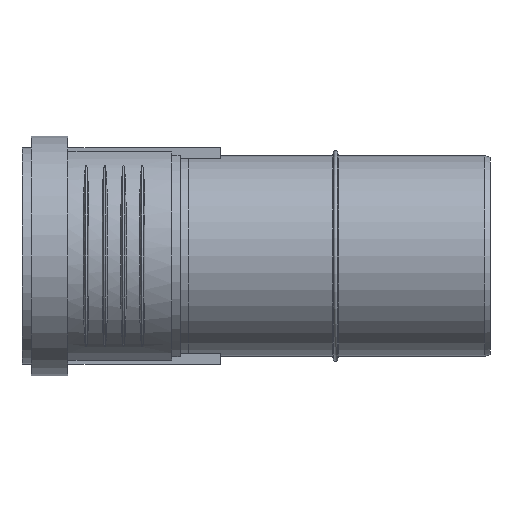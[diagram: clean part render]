
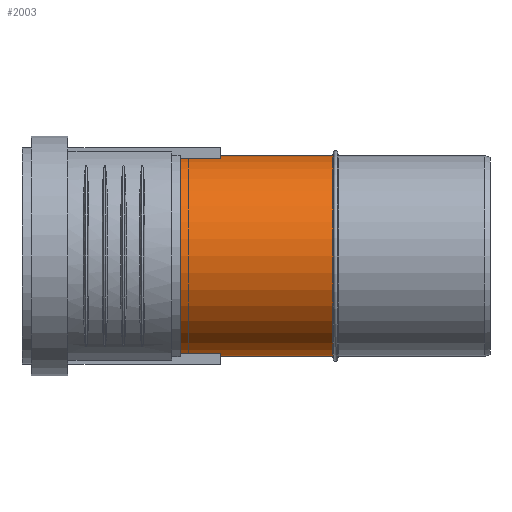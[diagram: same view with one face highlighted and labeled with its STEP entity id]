
A CAD part, left-side view. The second image highlights one B-rep face of the part: STEP entity #2003.
In plain terms, the highlighted cylindrical face has radius 37.6 mm (diameter 75.2 mm), a full revolution.
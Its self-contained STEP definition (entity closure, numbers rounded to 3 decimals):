
#262=CYLINDRICAL_SURFACE($,#2146,37.6);
#414=B_SPLINE_CURVE_WITH_KNOTS($,3,(#2974,#2975,#2976,#2977,#2978,#2979,
#2980,#2981,#2982,#2983,#2984,#2985,#2986,#2987,#2988,#2989,#2990,#2991,
#2992,#2993,#2994,#2995,#2996,#2997,#2998,#2999,#3000,#3001,#3002,#3003,
#3004,#3005,#3006,#3007,#3008,#3009,#3010,#3011,#3012,#3013,#3014,#3015,
#3016,#3017,#3018,#3019,#3020,#3021,#3022,#3023,#3024,#3025,#3026,#3027),
 .UNSPECIFIED.,.T.,.F.,(4,2,2,2,2,2,2,2,2,2,2,2,2,2,2,2,2,2,2,2,2,2,2,2,
2,2,4),(0.,1.299,2.598,3.391,3.788,
4.185,4.581,4.978,5.771,7.07,
8.369,8.834,9.3,9.765,10.23,
10.601,10.973,11.344,11.716,12.087,
12.459,12.83,13.202,13.667,14.132,
14.597,15.062),.UNSPECIFIED.);
#528=FACE_BOUND($,#723,.T.);
#529=FACE_BOUND($,#724,.T.);
#597=FACE_OUTER_BOUND($,#722,.T.);
#722=EDGE_LOOP($,(#1475));
#723=EDGE_LOOP($,(#1476));
#724=EDGE_LOOP($,(#1477));
#889=CIRCLE($,#2134,37.6);
#894=CIRCLE($,#2143,37.6);
#987=VERTEX_POINT($,#2955);
#992=VERTEX_POINT($,#2969);
#993=VERTEX_POINT($,#2973);
#1190=EDGE_CURVE($,#987,#987,#889,.T.);
#1195=EDGE_CURVE($,#992,#992,#894,.T.);
#1196=EDGE_CURVE($,#993,#993,#414,.T.);
#1475=ORIENTED_EDGE($,*,*,#1190,.T.);
#1476=ORIENTED_EDGE($,*,*,#1195,.T.);
#1477=ORIENTED_EDGE($,*,*,#1196,.T.);
#2003=ADVANCED_FACE($,(#597,#528,#529),#262,.T.);
#2134=AXIS2_PLACEMENT_3D($,#2956,#2375,#2376);
#2143=AXIS2_PLACEMENT_3D($,#2970,#2393,#2394);
#2146=AXIS2_PLACEMENT_3D($,#3028,#2399,#2400);
#2375=DIRECTION('center_axis',(0.,1.,0.));
#2376=DIRECTION('ref_axis',(1.,0.,0.));
#2393=DIRECTION('center_axis',(0.,-1.,0.));
#2394=DIRECTION('ref_axis',(1.,0.,0.));
#2399=DIRECTION('center_axis',(0.,1.,0.));
#2400=DIRECTION('ref_axis',(1.,0.,0.));
#2955=CARTESIAN_POINT('',(-37.6,58.95,0.));
#2956=CARTESIAN_POINT('Origin',(0.,58.95,0.));
#2969=CARTESIAN_POINT('',(37.6,117.01,0.));
#2970=CARTESIAN_POINT('Origin',(0.,117.01,0.));
#2973=CARTESIAN_POINT('',(31.792,81.702,20.075));
#2974=CARTESIAN_POINT('Ctrl Pts',(31.792,81.702,20.075));
#2975=CARTESIAN_POINT('Ctrl Pts',(31.792,86.032,20.075));
#2976=CARTESIAN_POINT('Ctrl Pts',(32.254,90.656,19.378));
#2977=CARTESIAN_POINT('Ctrl Pts',(33.641,99.516,16.856));
#2978=CARTESIAN_POINT('Ctrl Pts',(34.553,103.756,15.035));
#2979=CARTESIAN_POINT('Ctrl Pts',(35.906,109.463,11.262));
#2980=CARTESIAN_POINT('Ctrl Pts',(36.463,111.645,9.435));
#2981=CARTESIAN_POINT('Ctrl Pts',(37.101,114.06,6.205));
#2982=CARTESIAN_POINT('Ctrl Pts',(37.28,114.725,5.047));
#2983=CARTESIAN_POINT('Ctrl Pts',(37.53,115.645,2.606));
#2984=CARTESIAN_POINT('Ctrl Pts',(37.6,115.9,1.322));
#2985=CARTESIAN_POINT('Ctrl Pts',(37.6,115.9,-1.322));
#2986=CARTESIAN_POINT('Ctrl Pts',(37.53,115.645,-2.606));
#2987=CARTESIAN_POINT('Ctrl Pts',(37.28,114.725,-5.047));
#2988=CARTESIAN_POINT('Ctrl Pts',(37.101,114.06,-6.205));
#2989=CARTESIAN_POINT('Ctrl Pts',(36.463,111.645,-9.435));
#2990=CARTESIAN_POINT('Ctrl Pts',(35.906,109.463,-11.262));
#2991=CARTESIAN_POINT('Ctrl Pts',(34.553,103.756,-15.035));
#2992=CARTESIAN_POINT('Ctrl Pts',(33.641,99.516,-16.856));
#2993=CARTESIAN_POINT('Ctrl Pts',(32.254,90.656,-19.378));
#2994=CARTESIAN_POINT('Ctrl Pts',(31.792,86.032,-20.075));
#2995=CARTESIAN_POINT('Ctrl Pts',(31.792,80.152,-20.075));
#2996=CARTESIAN_POINT('Ctrl Pts',(31.85,78.534,-19.984));
#2997=CARTESIAN_POINT('Ctrl Pts',(32.122,75.313,-19.545));
#2998=CARTESIAN_POINT('Ctrl Pts',(32.336,73.709,-19.195));
#2999=CARTESIAN_POINT('Ctrl Pts',(32.912,70.654,-18.19));
#3000=CARTESIAN_POINT('Ctrl Pts',(33.275,69.2,-17.532));
#3001=CARTESIAN_POINT('Ctrl Pts',(34.08,66.554,-15.911));
#3002=CARTESIAN_POINT('Ctrl Pts',(34.521,65.363,-14.948));
#3003=CARTESIAN_POINT('Ctrl Pts',(35.29,63.512,-13.009));
#3004=CARTESIAN_POINT('Ctrl Pts',(35.64,62.754,-12.033));
#3005=CARTESIAN_POINT('Ctrl Pts',(36.29,61.437,-9.9));
#3006=CARTESIAN_POINT('Ctrl Pts',(36.59,60.877,-8.743));
#3007=CARTESIAN_POINT('Ctrl Pts',(37.085,59.987,-6.325));
#3008=CARTESIAN_POINT('Ctrl Pts',(37.28,59.656,-5.061));
#3009=CARTESIAN_POINT('Ctrl Pts',(37.537,59.222,-2.518));
#3010=CARTESIAN_POINT('Ctrl Pts',(37.6,59.12,-1.238));
#3011=CARTESIAN_POINT('Ctrl Pts',(37.6,59.12,1.238));
#3012=CARTESIAN_POINT('Ctrl Pts',(37.537,59.222,2.518));
#3013=CARTESIAN_POINT('Ctrl Pts',(37.28,59.656,5.061));
#3014=CARTESIAN_POINT('Ctrl Pts',(37.085,59.987,6.325));
#3015=CARTESIAN_POINT('Ctrl Pts',(36.59,60.877,8.743));
#3016=CARTESIAN_POINT('Ctrl Pts',(36.29,61.437,9.9));
#3017=CARTESIAN_POINT('Ctrl Pts',(35.64,62.754,12.033));
#3018=CARTESIAN_POINT('Ctrl Pts',(35.29,63.512,13.009));
#3019=CARTESIAN_POINT('Ctrl Pts',(34.521,65.363,14.948));
#3020=CARTESIAN_POINT('Ctrl Pts',(34.08,66.554,15.911));
#3021=CARTESIAN_POINT('Ctrl Pts',(33.275,69.2,17.532));
#3022=CARTESIAN_POINT('Ctrl Pts',(32.912,70.654,18.19));
#3023=CARTESIAN_POINT('Ctrl Pts',(32.336,73.709,19.195));
#3024=CARTESIAN_POINT('Ctrl Pts',(32.122,75.313,19.545));
#3025=CARTESIAN_POINT('Ctrl Pts',(31.85,78.534,19.984));
#3026=CARTESIAN_POINT('Ctrl Pts',(31.792,80.152,20.075));
#3027=CARTESIAN_POINT('Ctrl Pts',(31.792,81.702,20.075));
#3028=CARTESIAN_POINT('Origin',(0.,0.,0.));
